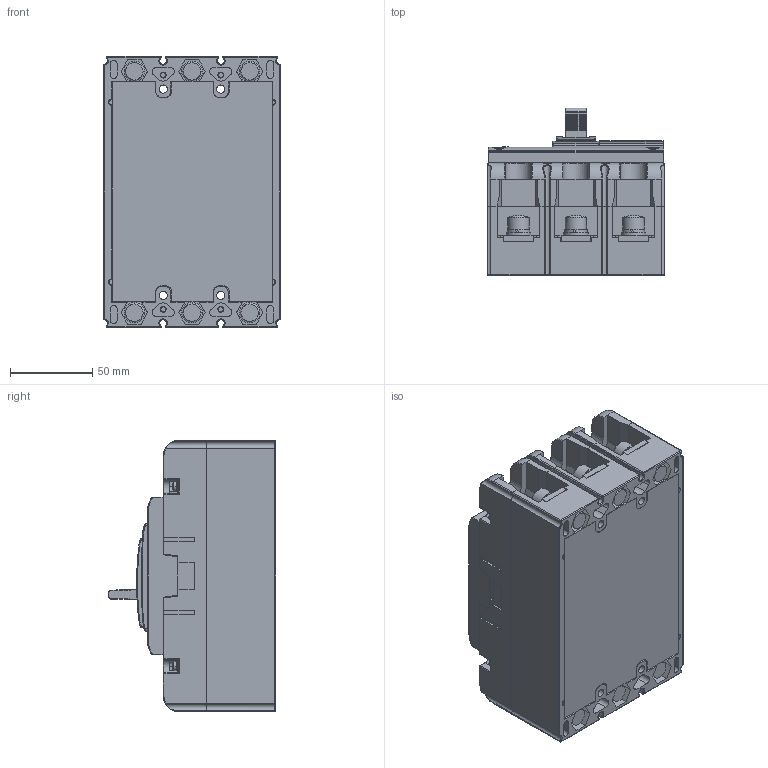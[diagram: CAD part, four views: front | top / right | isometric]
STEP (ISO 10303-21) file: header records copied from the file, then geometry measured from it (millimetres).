
FILE_DESCRIPTION((''),'2;1');
FILE_NAME('A','2021-11-04T',('DELL'),(''),'PRO/ENGINEER BY PARAMETRIC TECHNOLOGY CORPORATION, 2014310','PRO/ENGINEER BY PARAMETRIC TECHNOLOGY CORPORATION, 2014310','');
FILE_SCHEMA(('CONFIG_CONTROL_DESIGN'));
Products named in the file (1): A
Bounding box: 107 x 101.82 x 165 mm (x, y, z)
Surface area: 191515.4 mm2 (no closed solid volume)
Topology: 0 solids, 58 shells, 1878 faces, 6225 edges, 4242 vertices
Faces by surface type: plane 921, cylinder 609, torus 141, sphere 117, cone 70, bspline 20
Entity records: 71542 total; most frequent: CARTESIAN_POINT 17075, DIRECTION 11811, ORIENTED_EDGE 10497, EDGE_CURVE 6108, VERTEX_POINT 4242, AXIS2_PLACEMENT_3D 4089, VECTOR 3633, LINE 3633
